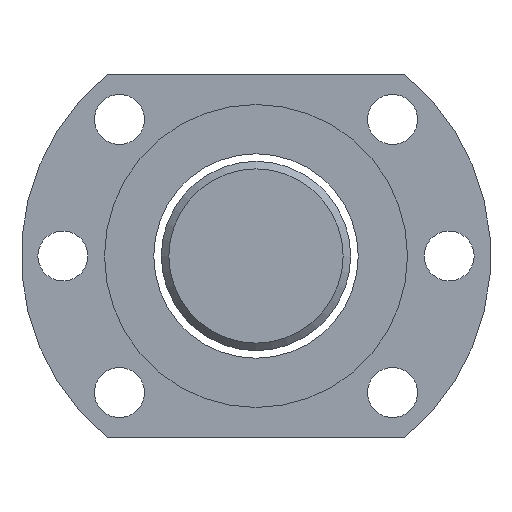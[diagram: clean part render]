
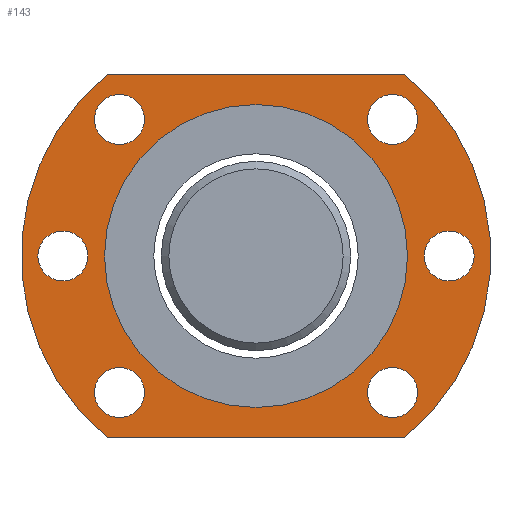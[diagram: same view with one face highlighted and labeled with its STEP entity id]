
A CAD part, left-side view. The second image highlights one B-rep face of the part: STEP entity #143.
In plain terms, the highlighted planar face has unit normal (-1, 0, 0).
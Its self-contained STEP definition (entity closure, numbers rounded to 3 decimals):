
#115=LINE('',#622,#123);
#116=LINE('',#626,#124);
#123=VECTOR('',#520,1.);
#124=VECTOR('',#523,1.);
#132=PLANE('',#452);
#143=ADVANCED_FACE('',(#189,#190,#191,#192,#193,#194,#195,#196),#132,.T.);
#189=FACE_BOUND('',#233,.T.);
#190=FACE_BOUND('',#234,.T.);
#191=FACE_BOUND('',#235,.T.);
#192=FACE_BOUND('',#236,.T.);
#193=FACE_BOUND('',#237,.T.);
#194=FACE_BOUND('',#238,.T.);
#195=FACE_BOUND('',#239,.T.);
#196=FACE_BOUND('',#240,.T.);
#233=EDGE_LOOP('',(#286));
#234=EDGE_LOOP('',(#287));
#235=EDGE_LOOP('',(#288,#289,#290,#291));
#236=EDGE_LOOP('',(#292));
#237=EDGE_LOOP('',(#293));
#238=EDGE_LOOP('',(#294));
#239=EDGE_LOOP('',(#295));
#240=EDGE_LOOP('',(#296));
#286=ORIENTED_EDGE('',*,*,#379,.T.);
#287=ORIENTED_EDGE('',*,*,#368,.F.);
#288=ORIENTED_EDGE('',*,*,#380,.T.);
#289=ORIENTED_EDGE('',*,*,#381,.T.);
#290=ORIENTED_EDGE('',*,*,#382,.T.);
#291=ORIENTED_EDGE('',*,*,#383,.T.);
#292=ORIENTED_EDGE('',*,*,#384,.F.);
#293=ORIENTED_EDGE('',*,*,#385,.F.);
#294=ORIENTED_EDGE('',*,*,#386,.F.);
#295=ORIENTED_EDGE('',*,*,#387,.T.);
#296=ORIENTED_EDGE('',*,*,#388,.T.);
#338=VERTEX_POINT('',#594);
#349=VERTEX_POINT('',#618);
#350=VERTEX_POINT('',#620);
#351=VERTEX_POINT('',#621);
#352=VERTEX_POINT('',#623);
#353=VERTEX_POINT('',#625);
#354=VERTEX_POINT('',#628);
#355=VERTEX_POINT('',#630);
#356=VERTEX_POINT('',#632);
#357=VERTEX_POINT('',#634);
#358=VERTEX_POINT('',#636);
#368=EDGE_CURVE('',#338,#338,#402,.T.);
#379=EDGE_CURVE('',#349,#349,#411,.T.);
#380=EDGE_CURVE('',#350,#351,#412,.T.);
#381=EDGE_CURVE('',#351,#352,#115,.T.);
#382=EDGE_CURVE('',#352,#353,#413,.T.);
#383=EDGE_CURVE('',#353,#350,#116,.T.);
#384=EDGE_CURVE('',#354,#354,#414,.T.);
#385=EDGE_CURVE('',#355,#355,#415,.T.);
#386=EDGE_CURVE('',#356,#356,#416,.T.);
#387=EDGE_CURVE('',#357,#357,#417,.T.);
#388=EDGE_CURVE('',#358,#358,#418,.T.);
#402=CIRCLE('',#433,20.);
#411=CIRCLE('',#444,3.3);
#412=CIRCLE('',#445,31.);
#413=CIRCLE('',#446,31.);
#414=CIRCLE('',#447,3.3);
#415=CIRCLE('',#448,3.3);
#416=CIRCLE('',#449,3.3);
#417=CIRCLE('',#450,3.3);
#418=CIRCLE('',#451,3.3);
#433=AXIS2_PLACEMENT_3D('',#593,#492,#493);
#444=AXIS2_PLACEMENT_3D('',#617,#516,#517);
#445=AXIS2_PLACEMENT_3D('',#619,#518,#519);
#446=AXIS2_PLACEMENT_3D('',#624,#521,#522);
#447=AXIS2_PLACEMENT_3D('',#627,#524,#525);
#448=AXIS2_PLACEMENT_3D('',#629,#526,#527);
#449=AXIS2_PLACEMENT_3D('',#631,#528,#529);
#450=AXIS2_PLACEMENT_3D('',#633,#530,#531);
#451=AXIS2_PLACEMENT_3D('',#635,#532,#533);
#452=AXIS2_PLACEMENT_3D('',#637,#534,#535);
#492=DIRECTION('',(-1.,0.,0.));
#493=DIRECTION('',(0.,0.,-1.));
#516=DIRECTION('',(1.,0.,0.));
#517=DIRECTION('',(0.,0.,1.));
#518=DIRECTION('',(-1.,0.,0.));
#519=DIRECTION('',(0.,0.,-1.));
#520=DIRECTION('',(0.,-1.,0.));
#521=DIRECTION('',(-1.,0.,0.));
#522=DIRECTION('',(0.,0.,-1.));
#523=DIRECTION('',(0.,1.,0.));
#524=DIRECTION('',(-1.,0.,0.));
#525=DIRECTION('',(0.,0.,1.));
#526=DIRECTION('',(-1.,0.,0.));
#527=DIRECTION('',(0.,0.,1.));
#528=DIRECTION('',(-1.,0.,0.));
#529=DIRECTION('',(0.,0.,1.));
#530=DIRECTION('',(1.,0.,0.));
#531=DIRECTION('',(0.,0.,1.));
#532=DIRECTION('',(1.,0.,0.));
#533=DIRECTION('',(0.,0.,1.));
#534=DIRECTION('',(-1.,0.,0.));
#535=DIRECTION('',(0.,0.,-1.));
#593=CARTESIAN_POINT('',(-0.225,-37.121,7.749));
#594=CARTESIAN_POINT('',(-0.225,-37.121,-12.251));
#617=CARTESIAN_POINT('',(-0.225,-62.621,7.749));
#618=CARTESIAN_POINT('',(-0.225,-62.621,11.049));
#619=CARTESIAN_POINT('',(-0.225,-37.121,7.749));
#620=CARTESIAN_POINT('',(-0.225,-17.499,31.749));
#621=CARTESIAN_POINT('',(-0.225,-17.499,-16.251));
#622=CARTESIAN_POINT('',(-0.225,-17.499,-16.251));
#623=CARTESIAN_POINT('',(-0.225,-56.742,-16.251));
#624=CARTESIAN_POINT('',(-0.225,-37.121,7.749));
#625=CARTESIAN_POINT('',(-0.225,-56.742,31.749));
#626=CARTESIAN_POINT('',(-0.225,-56.742,31.749));
#627=CARTESIAN_POINT('',(-0.225,-11.621,7.749));
#628=CARTESIAN_POINT('',(-0.225,-11.621,11.049));
#629=CARTESIAN_POINT('',(-0.225,-19.089,25.78));
#630=CARTESIAN_POINT('',(-0.225,-19.089,29.08));
#631=CARTESIAN_POINT('',(-0.225,-19.089,-10.282));
#632=CARTESIAN_POINT('',(-0.225,-19.089,-6.982));
#633=CARTESIAN_POINT('',(-0.225,-55.152,-10.282));
#634=CARTESIAN_POINT('',(-0.225,-55.152,-6.982));
#635=CARTESIAN_POINT('',(-0.225,-55.152,25.78));
#636=CARTESIAN_POINT('',(-0.225,-55.152,29.08));
#637=CARTESIAN_POINT('',(-0.225,-37.121,7.749));
